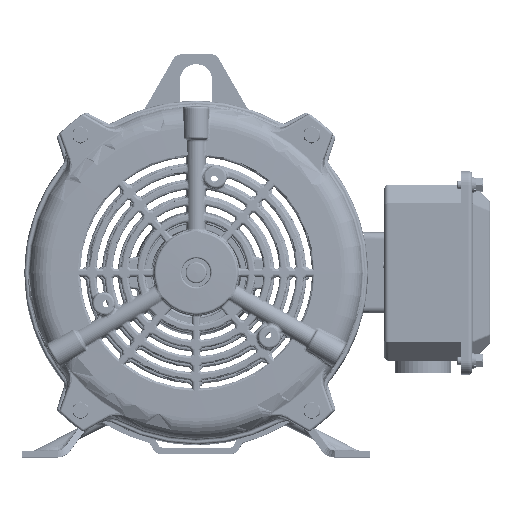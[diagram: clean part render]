
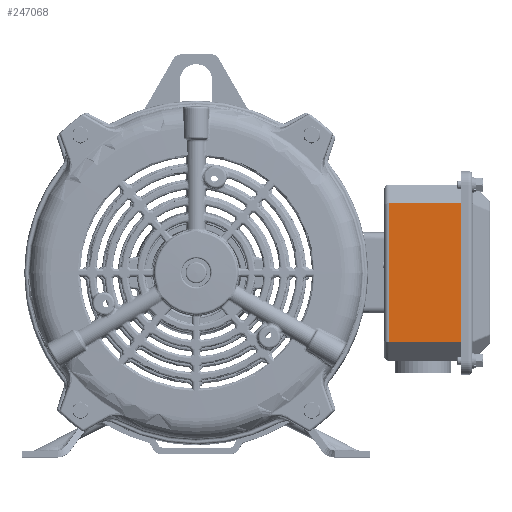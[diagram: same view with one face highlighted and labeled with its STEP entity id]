
A CAD part, top view. The second image highlights one B-rep face of the part: STEP entity #247068.
In plain terms, the highlighted planar face has unit normal (0, 0, 1).
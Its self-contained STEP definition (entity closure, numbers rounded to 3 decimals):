
#3394 = VECTOR ( 'NONE', #187701, 1000. ) ;
#12952 = CARTESIAN_POINT ( 'NONE',  ( 167.3, 0., 5. ) ) ;
#14234 = ORIENTED_EDGE ( 'NONE', *, *, #200917, .F. ) ;
#14781 = CARTESIAN_POINT ( 'NONE',  ( 119.5, 43., 5. ) ) ;
#21057 = FACE_OUTER_BOUND ( 'NONE', #147360, .T. ) ;
#21390 = CARTESIAN_POINT ( 'NONE',  ( 164.5, 43., 5. ) ) ;
#23777 = ORIENTED_EDGE ( 'NONE', *, *, #59116, .F. ) ;
#36151 = PLANE ( 'NONE',  #212663 ) ;
#59116 = EDGE_CURVE ( 'NONE', #65515, #133795, #174496, .T. ) ;
#60300 = VECTOR ( 'NONE', #60520, 1000. ) ;
#60520 = DIRECTION ( 'NONE',  ( 0., -1., 0. ) ) ;
#65515 = VERTEX_POINT ( 'NONE', #264355 ) ;
#73879 = VERTEX_POINT ( 'NONE', #14781 ) ;
#91311 = CARTESIAN_POINT ( 'NONE',  ( 164.5, -43., 5. ) ) ;
#96794 = VERTEX_POINT ( 'NONE', #113302 ) ;
#97384 = LINE ( 'NONE', #12952, #60300 ) ;
#108290 = EDGE_CURVE ( 'NONE', #96794, #73879, #205469, .T. ) ;
#111484 = VECTOR ( 'NONE', #137032, 1000. ) ;
#113302 = CARTESIAN_POINT ( 'NONE',  ( 167.3, 43., 5. ) ) ;
#133795 = VERTEX_POINT ( 'NONE', #263437 ) ;
#137032 = DIRECTION ( 'NONE',  ( 0., -1., 0. ) ) ;
#147360 = EDGE_LOOP ( 'NONE', ( #190255, #226979, #23777, #14234 ) ) ;
#149404 = VECTOR ( 'NONE', #194955, 1000. ) ;
#174496 = LINE ( 'NONE', #91311, #149404 ) ;
#177978 = LINE ( 'NONE', #261170, #111484 ) ;
#187701 = DIRECTION ( 'NONE',  ( -1., 0., 0. ) ) ;
#190255 = ORIENTED_EDGE ( 'NONE', *, *, #108290, .T. ) ;
#194955 = DIRECTION ( 'NONE',  ( -1., 0., 0. ) ) ;
#200917 = EDGE_CURVE ( 'NONE', #96794, #65515, #97384, .T. ) ;
#205469 = LINE ( 'NONE', #21390, #3394 ) ;
#212663 = AXIS2_PLACEMENT_3D ( 'NONE', #225627, #265202, #226959 ) ;
#225627 = CARTESIAN_POINT ( 'NONE',  ( 164.5, -43., 5. ) ) ;
#226959 = DIRECTION ( 'NONE',  ( 0., 1., 0. ) ) ;
#226979 = ORIENTED_EDGE ( 'NONE', *, *, #240359, .T. ) ;
#240359 = EDGE_CURVE ( 'NONE', #73879, #133795, #177978, .T. ) ;
#247068 = ADVANCED_FACE ( 'NONE', ( #21057 ), #36151, .F. ) ;
#261170 = CARTESIAN_POINT ( 'NONE',  ( 119.5, -43., 5. ) ) ;
#263437 = CARTESIAN_POINT ( 'NONE',  ( 119.5, -43., 5. ) ) ;
#264355 = CARTESIAN_POINT ( 'NONE',  ( 167.3, -43., 5. ) ) ;
#265202 = DIRECTION ( 'NONE',  ( 0., 0., -1. ) ) ;
